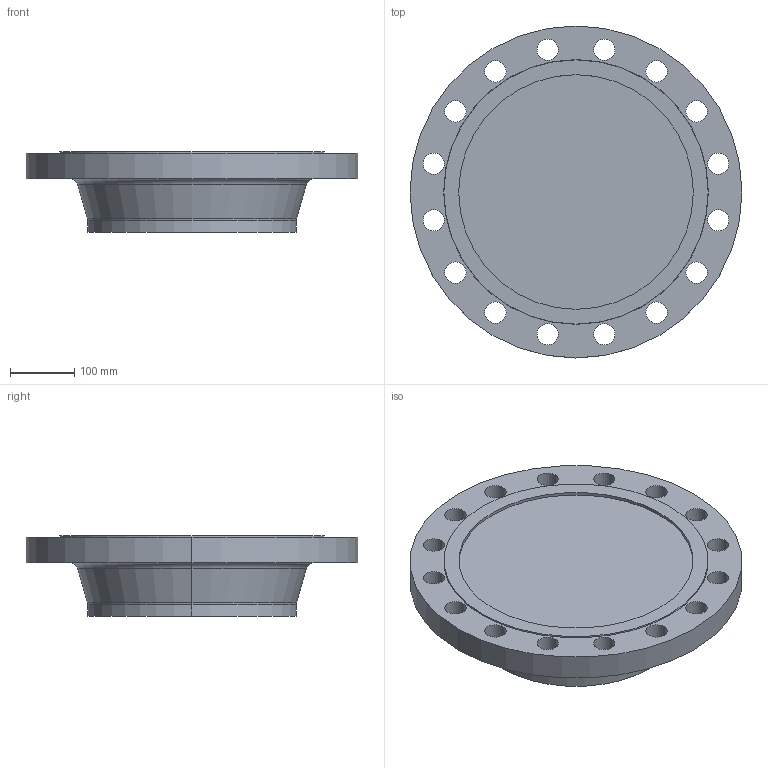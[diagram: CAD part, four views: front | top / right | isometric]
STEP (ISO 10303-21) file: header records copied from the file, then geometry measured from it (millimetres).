
FILE_DESCRIPTION (( 'STEP AP214' ), '1' );
FILE_NAME ('PN40 DN300 Type 21(ii) - Type F Face.STEP', '2019-01-05T18:58:39', ( '' ), ( '' ), 'SwSTEP 2.0', 'SolidWorks 2019', '' );
FILE_SCHEMA (( 'AUTOMOTIVE_DESIGN' ));
Length unit declared in the file: millimetre
Products named in the file (1): PN40 DN300 Type 21(ii) - Type F Face
Bounding box: 515 x 515 x 125 mm (x, y, z)
Volume: 15038892.5 mm3; surface area: 596105.3 mm2
Topology: 1 solids, 1 shells, 51 faces, 132 edges, 86 vertices
Faces by surface type: cylinder 38, plane 5, torus 4, cone 4
Entity records: 1706 total; most frequent: DIRECTION 326, CARTESIAN_POINT 270, ORIENTED_EDGE 264, AXIS2_PLACEMENT_3D 142, EDGE_CURVE 132, CIRCLE 90, EDGE_LOOP 86, VERTEX_POINT 86
